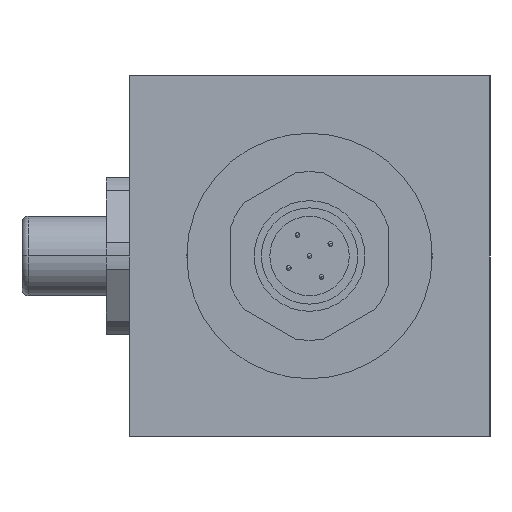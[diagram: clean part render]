
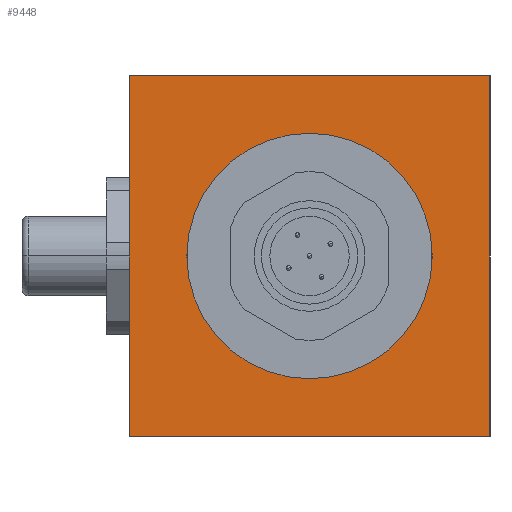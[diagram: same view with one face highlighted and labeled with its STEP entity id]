
A CAD part, left-side view. The second image highlights one B-rep face of the part: STEP entity #9448.
In plain terms, the highlighted planar face has unit normal (-1, 0, 0).
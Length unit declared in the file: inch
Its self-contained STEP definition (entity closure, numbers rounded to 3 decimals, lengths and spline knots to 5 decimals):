
#178 = FACE_OUTER_BOUND ( 'NONE', #3361, .T. ) ;
#614 = VECTOR ( 'NONE', #6311, 39.37008 ) ;
#827 = CIRCLE ( 'NONE', #9130, 0.51 ) ;
#941 = EDGE_CURVE ( 'NONE', #2214, #7495, #1453, .T. ) ;
#1125 = VERTEX_POINT ( 'NONE', #9821 ) ;
#1126 = DIRECTION ( 'NONE',  ( -1., 0., 0. ) ) ;
#1219 = AXIS2_PLACEMENT_3D ( 'NONE', #7153, #1126, #6425 ) ;
#1304 = CARTESIAN_POINT ( 'NONE',  ( -3.375, 1.5, -0.75 ) ) ;
#1453 = LINE ( 'NONE', #6277, #614 ) ;
#1829 = VERTEX_POINT ( 'NONE', #5113 ) ;
#2214 = VERTEX_POINT ( 'NONE', #1304 ) ;
#2217 = CARTESIAN_POINT ( 'NONE',  ( -3.375, 1.5, -0.75 ) ) ;
#2246 = DIRECTION ( 'NONE',  ( 0., 0., 1. ) ) ;
#2293 = EDGE_CURVE ( 'NONE', #1829, #5979, #827, .T. ) ;
#2423 = ORIENTED_EDGE ( 'NONE', *, *, #2931, .F. ) ;
#2852 = DIRECTION ( 'NONE',  ( 0., 0., -1. ) ) ;
#2886 = DIRECTION ( 'NONE',  ( 1., 0., 0. ) ) ;
#2931 = EDGE_CURVE ( 'NONE', #2214, #1125, #4834, .T. ) ;
#3361 = EDGE_LOOP ( 'NONE', ( #7279, #5066, #2423, #9735 ) ) ;
#4110 = CARTESIAN_POINT ( 'NONE',  ( -3.375, 0., -0.75 ) ) ;
#4212 = DIRECTION ( 'NONE',  ( 0., 0., 1. ) ) ;
#4213 = PLANE ( 'NONE',  #9109 ) ;
#4326 = LINE ( 'NONE', #6061, #8054 ) ;
#4678 = ORIENTED_EDGE ( 'NONE', *, *, #6134, .F. ) ;
#4834 = LINE ( 'NONE', #2217, #5080 ) ;
#4992 = DIRECTION ( 'NONE',  ( 0., -1., 0. ) ) ;
#5021 = CARTESIAN_POINT ( 'NONE',  ( -3.375, 1.5, 0.75 ) ) ;
#5034 = EDGE_LOOP ( 'NONE', ( #4678, #8333 ) ) ;
#5066 = ORIENTED_EDGE ( 'NONE', *, *, #7075, .F. ) ;
#5080 = VECTOR ( 'NONE', #2246, 39.37008 ) ;
#5113 = CARTESIAN_POINT ( 'NONE',  ( -3.375, 0.75, -0.51 ) ) ;
#5185 = CARTESIAN_POINT ( 'NONE',  ( -3.375, 1.5, -0.75 ) ) ;
#5199 = FACE_BOUND ( 'NONE', #5034, .T. ) ;
#5563 = VERTEX_POINT ( 'NONE', #6309 ) ;
#5979 = VERTEX_POINT ( 'NONE', #6331 ) ;
#6061 = CARTESIAN_POINT ( 'NONE',  ( -3.375, 0., -0.75 ) ) ;
#6134 = EDGE_CURVE ( 'NONE', #5979, #1829, #9253, .T. ) ;
#6277 = CARTESIAN_POINT ( 'NONE',  ( -3.375, 1.5, -0.75 ) ) ;
#6300 = LINE ( 'NONE', #5021, #9284 ) ;
#6309 = CARTESIAN_POINT ( 'NONE',  ( -3.375, 0., 0.75 ) ) ;
#6311 = DIRECTION ( 'NONE',  ( 0., -1., 0. ) ) ;
#6331 = CARTESIAN_POINT ( 'NONE',  ( -3.375, 0.75, 0.51 ) ) ;
#6425 = DIRECTION ( 'NONE',  ( 0., 0., 1. ) ) ;
#6723 = DIRECTION ( 'NONE',  ( 0., 0., 1. ) ) ;
#7075 = EDGE_CURVE ( 'NONE', #1125, #5563, #6300, .T. ) ;
#7153 = CARTESIAN_POINT ( 'NONE',  ( -3.375, 0.75, 0. ) ) ;
#7279 = ORIENTED_EDGE ( 'NONE', *, *, #8141, .T. ) ;
#7495 = VERTEX_POINT ( 'NONE', #4110 ) ;
#8032 = CARTESIAN_POINT ( 'NONE',  ( -3.375, 0.75, 0. ) ) ;
#8054 = VECTOR ( 'NONE', #6723, 39.37008 ) ;
#8141 = EDGE_CURVE ( 'NONE', #7495, #5563, #4326, .T. ) ;
#8333 = ORIENTED_EDGE ( 'NONE', *, *, #2293, .F. ) ;
#8790 = DIRECTION ( 'NONE',  ( -1., 0., 0. ) ) ;
#9109 = AXIS2_PLACEMENT_3D ( 'NONE', #5185, #2886, #2852 ) ;
#9130 = AXIS2_PLACEMENT_3D ( 'NONE', #8032, #8790, #4212 ) ;
#9253 = CIRCLE ( 'NONE', #1219, 0.51 ) ;
#9284 = VECTOR ( 'NONE', #4992, 39.37008 ) ;
#9448 = ADVANCED_FACE ( 'NONE', ( #5199, #178 ), #4213, .F. ) ;
#9735 = ORIENTED_EDGE ( 'NONE', *, *, #941, .T. ) ;
#9821 = CARTESIAN_POINT ( 'NONE',  ( -3.375, 1.5, 0.75 ) ) ;
